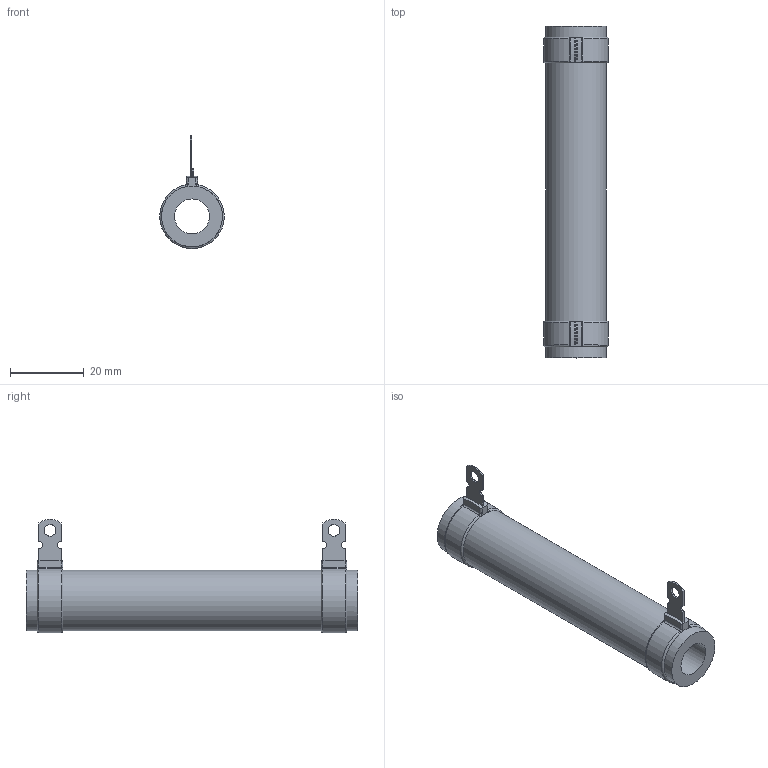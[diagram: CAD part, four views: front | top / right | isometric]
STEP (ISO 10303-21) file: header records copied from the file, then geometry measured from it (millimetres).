
FILE_DESCRIPTION(/* description */ (''),/* implementation_level */ '2;1');
FILE_NAME(/* name */ 'C:\_Vault\Dati\CATALOGO\RCA-RSA\25-1000\CA0052.stp',/* time_stamp */ '2014-01-22T14:45:33+01:00',/* author */ ('stefano'),/* organization */ (''),/* preprocessor_version */ 'ST-DEVELOPER v15.2',/* originating_system */ 'Autodesk Inventor 2014',/* authorisation */ '');
FILE_SCHEMA (('AUTOMOTIVE_DESIGN { 1 0 10303 214 3 1 1 }'));
Length unit declared in the file: millimetre
Products named in the file (1): CA0052
Bounding box: 17.5 x 90 x 30.75 mm (x, y, z)
Volume: 13381.2 mm3; surface area: 8111.1 mm2
Topology: 1 solids, 1 shells, 77 faces, 184 edges, 114 vertices
Faces by surface type: plane 35, cylinder 30, torus 12
Full cylindrical faces by diameter (mm): 3.2 x2, 9.5 x1, 16.5 x3
Entity records: 2371 total; most frequent: CARTESIAN_POINT 438, DIRECTION 406, ORIENTED_EDGE 352, EDGE_CURVE 176, AXIS2_PLACEMENT_3D 160, VERTEX_POINT 112, EDGE_LOOP 94, LINE 86
